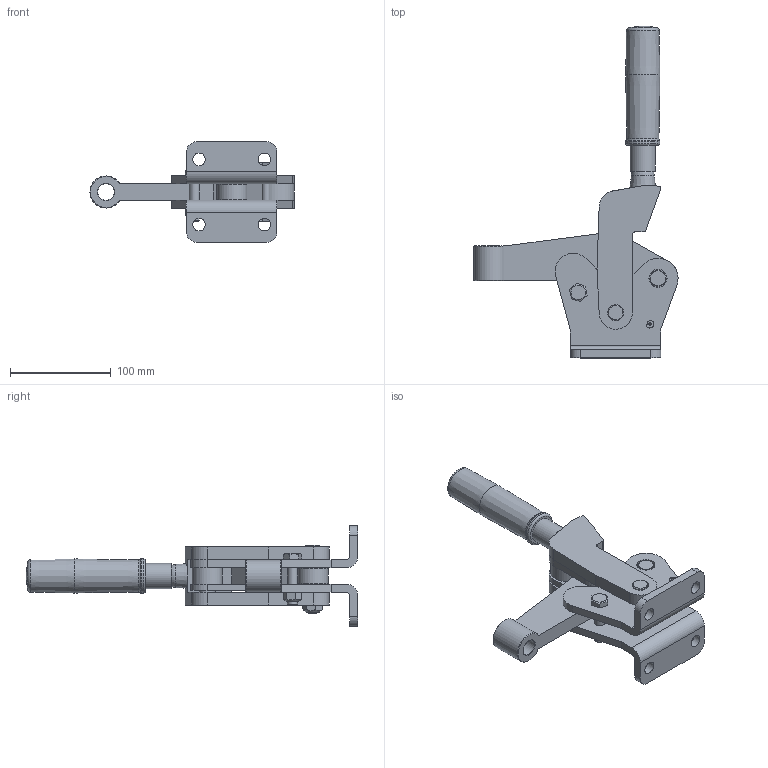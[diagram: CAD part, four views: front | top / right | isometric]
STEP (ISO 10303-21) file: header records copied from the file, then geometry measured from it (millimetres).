
FILE_DESCRIPTION( ( 'STEP AP203' ), '1' );
FILE_NAME( 'C:/Temp/Ganter_Step_05_03_2020/data/2_4/gn910/gn910_e/Toggle clamp GN 910-1540-E (closed).stp', '2020-03-13T05:50:22', ( 'License CC BY-ND 4.0' ), ( 'CADENAS' ), ' ', 'PARTsolutions', ' ' );
FILE_SCHEMA( ( 'CONFIG_CONTROL_DESIGN' ) );
Length unit declared in the file: millimetre
Products named in the file (5): Toggle clamp GN 910-1540-E (closed); _Toggle clamp GN 910-1540-E-1; _Toggle clamp GN 910-1540-E (0)-4; _Toggle clamp GN 910-1540-E-2; _Toggle clamp GN 910-1540-E (0)-3
Assembly tree (4 placements, depth 2):
  Toggle clamp GN 910-1540-E (closed)
    _Toggle clamp GN 910-1540-E-1
    _Toggle clamp GN 910-1540-E (0)-4
    _Toggle clamp GN 910-1540-E-2
    _Toggle clamp GN 910-1540-E (0)-3
Bounding box: 203 x 330 x 100 mm (x, y, z)
Volume: 683029.2 mm3; surface area: 154427 mm2
Topology: 4 solids, 4 shells, 183 faces, 452 edges, 298 vertices
Faces by surface type: plane 95, cylinder 64, cone 16, torus 6, sphere 2
Full cylindrical faces by diameter (mm): 10 x2, 12.5 x4, 14.6 x1, 16 x14, 16.5 x1, 18 x2, 25 x1, 30 x2, 34 x1
Entity records: 5534 total; most frequent: CARTESIAN_POINT 1151, DIRECTION 892, ORIENTED_EDGE 776, EDGE_CURVE 388, AXIS2_PLACEMENT_3D 344, EDGE_LOOP 286, VERTEX_POINT 285, FACE_OUTER_BOUND 218
